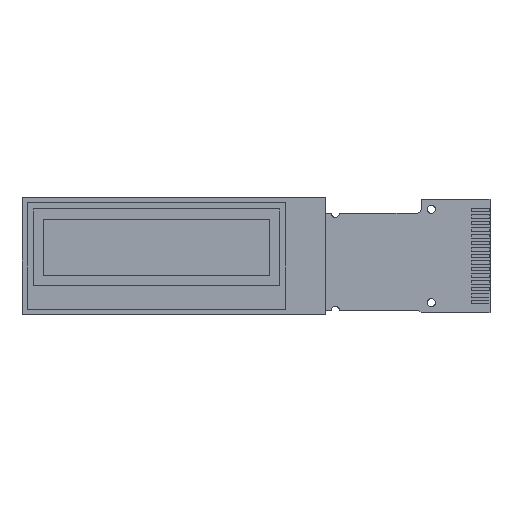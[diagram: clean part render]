
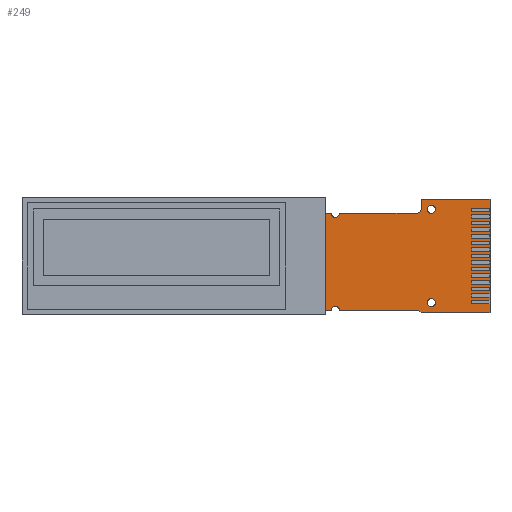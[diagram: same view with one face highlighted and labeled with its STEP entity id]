
A CAD part, top view. The second image highlights one B-rep face of the part: STEP entity #249.
In plain terms, the highlighted planar face has unit normal (0, 0, 1).
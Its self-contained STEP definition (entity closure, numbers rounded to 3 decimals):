
#76 = DIRECTION ( 'NONE',  ( 0., 0., 1. ) ) ;
#88 = EDGE_CURVE ( 'NONE', #3220, #309, #1343, .T. ) ;
#99 = ORIENTED_EDGE ( 'NONE', *, *, #4445, .T. ) ;
#180 = CARTESIAN_POINT ( 'NONE',  ( 24.5, -5.625, 0.1 ) ) ;
#249 = ADVANCED_FACE ( 'NONE', ( #2174, #5648, #3078 ), #3928, .T. ) ;
#297 = ORIENTED_EDGE ( 'NONE', *, *, #2709, .T. ) ;
#309 = VERTEX_POINT ( 'NONE', #1270 ) ;
#383 = CARTESIAN_POINT ( 'NONE',  ( 24.23, -5.355, 0.1 ) ) ;
#477 = CARTESIAN_POINT ( 'NONE',  ( 25.5, 4.625, 0.1 ) ) ;
#542 = CARTESIAN_POINT ( 'NONE',  ( 16.4, -5.355, 0.1 ) ) ;
#592 = AXIS2_PLACEMENT_3D ( 'NONE', #2992, #5250, #3028 ) ;
#593 = CARTESIAN_POINT ( 'NONE',  ( 31.3, 5.625, 0.1 ) ) ;
#596 = LINE ( 'NONE', #1796, #2403 ) ;
#664 = CARTESIAN_POINT ( 'NONE',  ( 15.6, -5.355, 0.1 ) ) ;
#668 = VERTEX_POINT ( 'NONE', #1324 ) ;
#803 = ORIENTED_EDGE ( 'NONE', *, *, #4968, .T. ) ;
#832 = EDGE_CURVE ( 'NONE', #3745, #2116, #5197, .T. ) ;
#847 = EDGE_CURVE ( 'NONE', #5405, #4485, #2367, .T. ) ;
#858 = DIRECTION ( 'NONE',  ( 0., 0., 1. ) ) ;
#873 = VECTOR ( 'NONE', #2755, 1000. ) ;
#987 = DIRECTION ( 'NONE',  ( 1., 0., 0. ) ) ;
#1001 = ORIENTED_EDGE ( 'NONE', *, *, #1243, .T. ) ;
#1003 = DIRECTION ( 'NONE',  ( -1., 0., 0. ) ) ;
#1063 = ORIENTED_EDGE ( 'NONE', *, *, #5816, .T. ) ;
#1128 = CARTESIAN_POINT ( 'NONE',  ( 16., -5.355, 0.1 ) ) ;
#1200 = CARTESIAN_POINT ( 'NONE',  ( 31.3, 5.625, 0.1 ) ) ;
#1202 = CARTESIAN_POINT ( 'NONE',  ( 15., 4.22, 0.1 ) ) ;
#1243 = EDGE_CURVE ( 'NONE', #4586, #4372, #2292, .T. ) ;
#1270 = CARTESIAN_POINT ( 'NONE',  ( 25.9, -4.625, 0.1 ) ) ;
#1303 = CARTESIAN_POINT ( 'NONE',  ( 25.1, 4.625, 0.1 ) ) ;
#1324 = CARTESIAN_POINT ( 'NONE',  ( 15.6, 4.22, 0.1 ) ) ;
#1338 = EDGE_CURVE ( 'NONE', #2804, #4586, #5783, .T. ) ;
#1343 = CIRCLE ( 'NONE', #4081, 0.4 ) ;
#1370 = CARTESIAN_POINT ( 'NONE',  ( 15., 4.22, 0.1 ) ) ;
#1422 = CARTESIAN_POINT ( 'NONE',  ( 15., -5.355, 0.1 ) ) ;
#1465 = VERTEX_POINT ( 'NONE', #664 ) ;
#1481 = DIRECTION ( 'NONE',  ( 0., 1., 0. ) ) ;
#1483 = ORIENTED_EDGE ( 'NONE', *, *, #4781, .T. ) ;
#1523 = LINE ( 'NONE', #2548, #4915 ) ;
#1606 = VECTOR ( 'NONE', #987, 1000. ) ;
#1747 = ORIENTED_EDGE ( 'NONE', *, *, #4111, .F. ) ;
#1796 = CARTESIAN_POINT ( 'NONE',  ( 24.5, 4.72, 0.1 ) ) ;
#1798 = VERTEX_POINT ( 'NONE', #3396 ) ;
#1829 = DIRECTION ( 'NONE',  ( 1., 0., 0. ) ) ;
#1894 = VERTEX_POINT ( 'NONE', #5681 ) ;
#1898 = ORIENTED_EDGE ( 'NONE', *, *, #3124, .T. ) ;
#1902 = EDGE_CURVE ( 'NONE', #1894, #5663, #3227, .T. ) ;
#1963 = CARTESIAN_POINT ( 'NONE',  ( 25.1, -4.625, 0.1 ) ) ;
#1982 = CARTESIAN_POINT ( 'NONE',  ( 16., 4.22, 0.1 ) ) ;
#1986 = CARTESIAN_POINT ( 'NONE',  ( 16.4, -5.355, 0.1 ) ) ;
#1991 = VECTOR ( 'NONE', #4252, 1000. ) ;
#2116 = VERTEX_POINT ( 'NONE', #5463 ) ;
#2165 = VECTOR ( 'NONE', #1003, 1000. ) ;
#2174 = FACE_BOUND ( 'NONE', #3410, .T. ) ;
#2257 = VECTOR ( 'NONE', #4440, 1000. ) ;
#2292 = LINE ( 'NONE', #4538, #2165 ) ;
#2310 = CARTESIAN_POINT ( 'NONE',  ( 24.5, 5.625, 0.1 ) ) ;
#2367 = LINE ( 'NONE', #542, #1606 ) ;
#2403 = VECTOR ( 'NONE', #5410, 1000. ) ;
#2440 = ORIENTED_EDGE ( 'NONE', *, *, #2721, .F. ) ;
#2497 = EDGE_CURVE ( 'NONE', #4485, #5574, #2686, .T. ) ;
#2510 = DIRECTION ( 'NONE',  ( 0., 0., 1. ) ) ;
#2548 = CARTESIAN_POINT ( 'NONE',  ( 15., -5.355, 0.1 ) ) ;
#2686 = LINE ( 'NONE', #3974, #2257 ) ;
#2690 = DIRECTION ( 'NONE',  ( -1., 0., 0. ) ) ;
#2709 = EDGE_CURVE ( 'NONE', #4372, #1894, #596, .T. ) ;
#2721 = EDGE_CURVE ( 'NONE', #309, #3220, #4030, .T. ) ;
#2737 = DIRECTION ( 'NONE',  ( 0., -1., 0. ) ) ;
#2755 = DIRECTION ( 'NONE',  ( -1., 0., 0. ) ) ;
#2757 = CARTESIAN_POINT ( 'NONE',  ( 15., 4.22, 0.1 ) ) ;
#2804 = VERTEX_POINT ( 'NONE', #5432 ) ;
#2884 = DIRECTION ( 'NONE',  ( 0., 0., -1. ) ) ;
#2896 = DIRECTION ( 'NONE',  ( 1., 0., 0. ) ) ;
#2935 = AXIS2_PLACEMENT_3D ( 'NONE', #477, #76, #1829 ) ;
#2970 = CIRCLE ( 'NONE', #4494, 0.4 ) ;
#2992 = CARTESIAN_POINT ( 'NONE',  ( 16., -5.355, 0.1 ) ) ;
#3028 = DIRECTION ( 'NONE',  ( 1., 0., 0. ) ) ;
#3078 = FACE_BOUND ( 'NONE', #4018, .T. ) ;
#3114 = CARTESIAN_POINT ( 'NONE',  ( 25.5, -4.625, 0.1 ) ) ;
#3124 = EDGE_CURVE ( 'NONE', #1798, #668, #5824, .T. ) ;
#3219 = ORIENTED_EDGE ( 'NONE', *, *, #3253, .T. ) ;
#3220 = VERTEX_POINT ( 'NONE', #1963 ) ;
#3227 = CIRCLE ( 'NONE', #4443, 0.5 ) ;
#3246 = LINE ( 'NONE', #5157, #1991 ) ;
#3253 = EDGE_CURVE ( 'NONE', #668, #4716, #5170, .T. ) ;
#3361 = AXIS2_PLACEMENT_3D ( 'NONE', #3114, #4493, #2690 ) ;
#3396 = CARTESIAN_POINT ( 'NONE',  ( 16.4, 4.22, 0.1 ) ) ;
#3410 = EDGE_LOOP ( 'NONE', ( #5360, #1747 ) ) ;
#3484 = DIRECTION ( 'NONE',  ( 1., 0., 0. ) ) ;
#3501 = CARTESIAN_POINT ( 'NONE',  ( 24., 4.72, 0.1 ) ) ;
#3529 = CARTESIAN_POINT ( 'NONE',  ( 25.5, -4.625, 0.1 ) ) ;
#3688 = VECTOR ( 'NONE', #3904, 1000. ) ;
#3702 = ORIENTED_EDGE ( 'NONE', *, *, #88, .F. ) ;
#3745 = VERTEX_POINT ( 'NONE', #1303 ) ;
#3814 = VERTEX_POINT ( 'NONE', #1422 ) ;
#3868 = DIRECTION ( 'NONE',  ( 1., 0., 0. ) ) ;
#3904 = DIRECTION ( 'NONE',  ( -1., 0., 0. ) ) ;
#3928 = PLANE ( 'NONE',  #592 ) ;
#3973 = VECTOR ( 'NONE', #2737, 1000. ) ;
#3974 = CARTESIAN_POINT ( 'NONE',  ( 24.23, -5.355, 0.1 ) ) ;
#4016 = DIRECTION ( 'NONE',  ( -1., 0., 0. ) ) ;
#4018 = EDGE_LOOP ( 'NONE', ( #3702, #2440 ) ) ;
#4030 = CIRCLE ( 'NONE', #3361, 0.4 ) ;
#4081 = AXIS2_PLACEMENT_3D ( 'NONE', #3529, #858, #4016 ) ;
#4111 = EDGE_CURVE ( 'NONE', #2116, #3745, #2970, .T. ) ;
#4214 = VECTOR ( 'NONE', #1481, 1000. ) ;
#4252 = DIRECTION ( 'NONE',  ( 1., 0., 0. ) ) ;
#4324 = CARTESIAN_POINT ( 'NONE',  ( 24., 4.22, 0.1 ) ) ;
#4372 = VERTEX_POINT ( 'NONE', #2310 ) ;
#4400 = EDGE_LOOP ( 'NONE', ( #5501, #1001, #297, #5553, #4520, #1898, #3219, #1483, #99, #1063, #5719, #5509, #803 ) ) ;
#4440 = DIRECTION ( 'NONE',  ( 0.707, -0.707, 0. ) ) ;
#4443 = AXIS2_PLACEMENT_3D ( 'NONE', #3501, #5285, #3484 ) ;
#4445 = EDGE_CURVE ( 'NONE', #3814, #1465, #1523, .T. ) ;
#4485 = VERTEX_POINT ( 'NONE', #383 ) ;
#4493 = DIRECTION ( 'NONE',  ( 0., 0., 1. ) ) ;
#4494 = AXIS2_PLACEMENT_3D ( 'NONE', #4804, #2510, #3868 ) ;
#4520 = ORIENTED_EDGE ( 'NONE', *, *, #5211, .T. ) ;
#4538 = CARTESIAN_POINT ( 'NONE',  ( 24.5, 5.625, 0.1 ) ) ;
#4586 = VERTEX_POINT ( 'NONE', #1200 ) ;
#4716 = VERTEX_POINT ( 'NONE', #2757 ) ;
#4781 = EDGE_CURVE ( 'NONE', #4716, #3814, #4901, .T. ) ;
#4799 = DIRECTION ( 'NONE',  ( 1., 0., 0. ) ) ;
#4804 = CARTESIAN_POINT ( 'NONE',  ( 25.5, 4.625, 0.1 ) ) ;
#4901 = LINE ( 'NONE', #1370, #3973 ) ;
#4915 = VECTOR ( 'NONE', #4799, 1000. ) ;
#4968 = EDGE_CURVE ( 'NONE', #5574, #2804, #3246, .T. ) ;
#5140 = DIRECTION ( 'NONE',  ( 0., 0., -1. ) ) ;
#5157 = CARTESIAN_POINT ( 'NONE',  ( 24.5, -5.625, 0.1 ) ) ;
#5170 = LINE ( 'NONE', #1202, #3688 ) ;
#5197 = CIRCLE ( 'NONE', #2935, 0.4 ) ;
#5211 = EDGE_CURVE ( 'NONE', #5663, #1798, #5800, .T. ) ;
#5250 = DIRECTION ( 'NONE',  ( 0., 0., 1. ) ) ;
#5285 = DIRECTION ( 'NONE',  ( 0., 0., -1. ) ) ;
#5360 = ORIENTED_EDGE ( 'NONE', *, *, #832, .F. ) ;
#5405 = VERTEX_POINT ( 'NONE', #1986 ) ;
#5410 = DIRECTION ( 'NONE',  ( 0., -1., 0. ) ) ;
#5432 = CARTESIAN_POINT ( 'NONE',  ( 31.3, -5.625, 0.1 ) ) ;
#5447 = CARTESIAN_POINT ( 'NONE',  ( 16.4, 4.22, 0.1 ) ) ;
#5463 = CARTESIAN_POINT ( 'NONE',  ( 25.9, 4.625, 0.1 ) ) ;
#5501 = ORIENTED_EDGE ( 'NONE', *, *, #1338, .T. ) ;
#5509 = ORIENTED_EDGE ( 'NONE', *, *, #2497, .T. ) ;
#5553 = ORIENTED_EDGE ( 'NONE', *, *, #1902, .T. ) ;
#5567 = AXIS2_PLACEMENT_3D ( 'NONE', #1128, #2884, #5612 ) ;
#5574 = VERTEX_POINT ( 'NONE', #180 ) ;
#5601 = AXIS2_PLACEMENT_3D ( 'NONE', #1982, #5140, #2896 ) ;
#5612 = DIRECTION ( 'NONE',  ( 1., 0., 0. ) ) ;
#5648 = FACE_OUTER_BOUND ( 'NONE', #4400, .T. ) ;
#5663 = VERTEX_POINT ( 'NONE', #4324 ) ;
#5681 = CARTESIAN_POINT ( 'NONE',  ( 24.5, 4.72, 0.1 ) ) ;
#5719 = ORIENTED_EDGE ( 'NONE', *, *, #847, .T. ) ;
#5763 = CIRCLE ( 'NONE', #5567, 0.4 ) ;
#5783 = LINE ( 'NONE', #593, #4214 ) ;
#5800 = LINE ( 'NONE', #5447, #873 ) ;
#5816 = EDGE_CURVE ( 'NONE', #1465, #5405, #5763, .T. ) ;
#5824 = CIRCLE ( 'NONE', #5601, 0.4 ) ;
